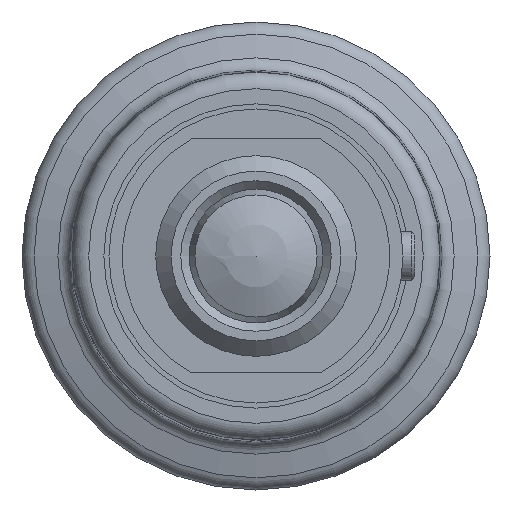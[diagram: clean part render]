
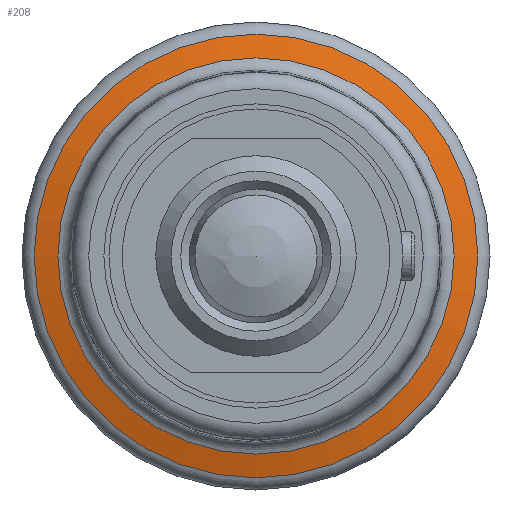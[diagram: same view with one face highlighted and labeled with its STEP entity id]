
A CAD part, left-side view. The second image highlights one B-rep face of the part: STEP entity #208.
In plain terms, the highlighted conical face has half-angle 74.478 degrees and reference radius 13.274 mm.
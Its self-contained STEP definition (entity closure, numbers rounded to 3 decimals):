
#208 = ADVANCED_FACE( '', ( #341, #342 ), #343, .T. );
#341 = FACE_BOUND( '', #502, .T. );
#342 = FACE_OUTER_BOUND( '', #503, .T. );
#343 = CONICAL_SURFACE( '', #504, 13.274, 1.3 );
#502 = EDGE_LOOP( '', ( #764 ) );
#503 = EDGE_LOOP( '', ( #765 ) );
#504 = AXIS2_PLACEMENT_3D( '', #766, #767, #768 );
#764 = ORIENTED_EDGE( '', *, *, #891, .F. );
#765 = ORIENTED_EDGE( '', *, *, #890, .T. );
#766 = CARTESIAN_POINT( '', ( 8.125, 0., 0. ) );
#767 = DIRECTION( '', ( -1., 0., 0. ) );
#768 = DIRECTION( '', ( 0., 0., 1. ) );
#890 = EDGE_CURVE( '', #998, #998, #999, .T. );
#891 = EDGE_CURVE( '', #1000, #1000, #1001, .T. );
#998 = VERTEX_POINT( '', #1430 );
#999 = CIRCLE( '', #1431, 13.274 );
#1000 = VERTEX_POINT( '', #1432 );
#1001 = CIRCLE( '', #1433, 11.853 );
#1430 = CARTESIAN_POINT( '', ( 8.125, 0., -13.274 ) );
#1431 = AXIS2_PLACEMENT_3D( '', #1570, #1571, #1572 );
#1432 = CARTESIAN_POINT( '', ( 8.52, 0., -11.853 ) );
#1433 = AXIS2_PLACEMENT_3D( '', #1573, #1574, #1575 );
#1570 = CARTESIAN_POINT( '', ( 8.125, 0., 0. ) );
#1571 = DIRECTION( '', ( 1., 0., 0. ) );
#1572 = DIRECTION( '', ( 0., 0., -1. ) );
#1573 = CARTESIAN_POINT( '', ( 8.52, 0., 0. ) );
#1574 = DIRECTION( '', ( 1., 0., 0. ) );
#1575 = DIRECTION( '', ( 0., 0., -1. ) );
